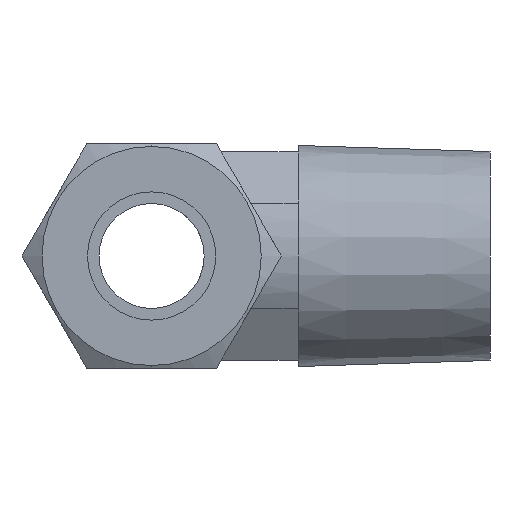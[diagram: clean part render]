
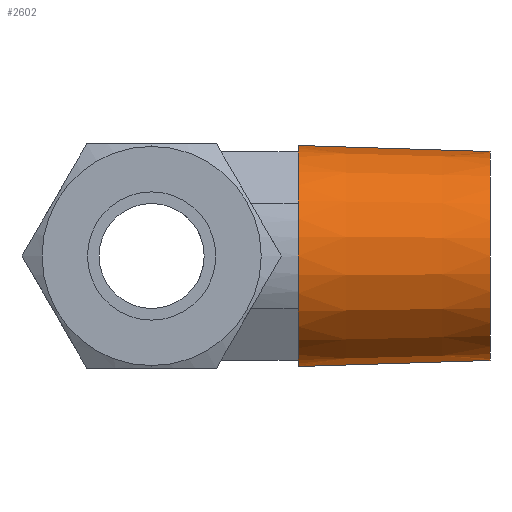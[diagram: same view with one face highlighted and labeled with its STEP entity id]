
A CAD part, left-side view. The second image highlights one B-rep face of the part: STEP entity #2602.
In plain terms, the highlighted conical face has half-angle 1.8 degrees and reference radius 10.6 mm.
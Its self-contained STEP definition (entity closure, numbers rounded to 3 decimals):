
#32 = VERTEX_POINT ( 'NONE', #670 ) ;
#89 = ORIENTED_EDGE ( 'NONE', *, *, #90, .T. ) ;
#90 = EDGE_CURVE ( 'NONE', #2630, #2614, #771, .T. ) ;
#91 = ORIENTED_EDGE ( 'NONE', *, *, #92, .F. ) ;
#92 = EDGE_CURVE ( 'NONE', #2594, #2614, #766, .T. ) ;
#670 = CARTESIAN_POINT ( 'NONE',  ( 0., -14.5, 10.942 ) ) ;
#763 = DIRECTION ( 'NONE',  ( 0., 1., -0.031 ) ) ;
#764 = VECTOR ( 'NONE', #763, 1000. ) ;
#765 = CARTESIAN_POINT ( 'NONE',  ( 0., -25.37, -10.6 ) ) ;
#766 = LINE ( 'NONE', #765, #764 ) ;
#767 = DIRECTION ( 'NONE',  ( 0., 0., -1. ) ) ;
#768 = DIRECTION ( 'NONE',  ( 0., -1., 0. ) ) ;
#769 = CARTESIAN_POINT ( 'NONE',  ( 0., -14.5, 0. ) ) ;
#770 = AXIS2_PLACEMENT_3D ( 'NONE', #769, #768, #767 ) ;
#771 = CIRCLE ( 'NONE', #770, 10.942 ) ;
#1975 = DIRECTION ( 'NONE',  ( 0., 1., 0.031 ) ) ;
#1976 = VECTOR ( 'NONE', #1975, 1000. ) ;
#1977 = CARTESIAN_POINT ( 'NONE',  ( 0., -25.37, 10.6 ) ) ;
#1983 = LINE ( 'NONE', #1977, #1976 ) ;
#1999 = CARTESIAN_POINT ( 'NONE',  ( 0., -33.5, 10.345 ) ) ;
#2006 = CARTESIAN_POINT ( 'NONE',  ( 0., -33.5, -10.345 ) ) ;
#2033 = CARTESIAN_POINT ( 'NONE',  ( -3.692, -14.5, 10.3 ) ) ;
#2034 = CARTESIAN_POINT ( 'NONE',  ( -7.074, -14.5, -8.347 ) ) ;
#2035 = DIRECTION ( 'NONE',  ( 0., 0., -1. ) ) ;
#2036 = DIRECTION ( 'NONE',  ( 0., -1., 0. ) ) ;
#2037 = CARTESIAN_POINT ( 'NONE',  ( 0., -14.5, 0. ) ) ;
#2038 = AXIS2_PLACEMENT_3D ( 'NONE', #2037, #2036, #2035 ) ;
#2039 = CIRCLE ( 'NONE', #2038, 10.942 ) ;
#2044 = DIRECTION ( 'NONE',  ( 0., 0., -1. ) ) ;
#2045 = DIRECTION ( 'NONE',  ( 0., 1., 0. ) ) ;
#2046 = CARTESIAN_POINT ( 'NONE',  ( 0., -25.37, 0. ) ) ;
#2047 = AXIS2_PLACEMENT_3D ( 'NONE', #2046, #2045, #2044 ) ;
#2048 = CONICAL_SURFACE ( 'NONE', #2047, 10.6, 0.031 ) ;
#2049 = FACE_OUTER_BOUND ( 'NONE', #2603, .T. ) ;
#2050 = DIRECTION ( 'NONE',  ( 0., 0., -1. ) ) ;
#2051 = DIRECTION ( 'NONE',  ( 0., -1., 0. ) ) ;
#2052 = CARTESIAN_POINT ( 'NONE',  ( 0., -33.5, 0. ) ) ;
#2053 = AXIS2_PLACEMENT_3D ( 'NONE', #2052, #2051, #2050 ) ;
#2054 = CIRCLE ( 'NONE', #2053, 10.345 ) ;
#2058 = CARTESIAN_POINT ( 'NONE',  ( -3.692, -14.5, -10.3 ) ) ;
#2077 = CARTESIAN_POINT ( 'NONE',  ( -7.074, -14.5, 8.347 ) ) ;
#2078 = DIRECTION ( 'NONE',  ( 0., 0., -1. ) ) ;
#2079 = DIRECTION ( 'NONE',  ( 0., -1., 0. ) ) ;
#2080 = CARTESIAN_POINT ( 'NONE',  ( 0., -14.5, 0. ) ) ;
#2081 = AXIS2_PLACEMENT_3D ( 'NONE', #2080, #2079, #2078 ) ;
#2082 = CIRCLE ( 'NONE', #2081, 10.942 ) ;
#2083 = CARTESIAN_POINT ( 'NONE',  ( 0., -14.5, -10.942 ) ) ;
#2084 = DIRECTION ( 'NONE',  ( 0., 0., -1. ) ) ;
#2085 = DIRECTION ( 'NONE',  ( 0., -1., 0. ) ) ;
#2086 = CARTESIAN_POINT ( 'NONE',  ( 0., -14.5, 0. ) ) ;
#2087 = AXIS2_PLACEMENT_3D ( 'NONE', #2086, #2085, #2084 ) ;
#2088 = CIRCLE ( 'NONE', #2087, 10.942 ) ;
#2239 = CIRCLE ( 'NONE', #2294, 10.942 ) ;
#2291 = DIRECTION ( 'NONE',  ( 0., 0., -1. ) ) ;
#2292 = DIRECTION ( 'NONE',  ( 0., -1., 0. ) ) ;
#2293 = CARTESIAN_POINT ( 'NONE',  ( 0., -14.5, 0. ) ) ;
#2294 = AXIS2_PLACEMENT_3D ( 'NONE', #2293, #2292, #2291 ) ;
#2575 = EDGE_CURVE ( 'NONE', #2597, #32, #1983, .T. ) ;
#2583 = ORIENTED_EDGE ( 'NONE', *, *, #2613, .T. ) ;
#2594 = VERTEX_POINT ( 'NONE', #2006 ) ;
#2597 = VERTEX_POINT ( 'NONE', #1999 ) ;
#2599 = EDGE_CURVE ( 'NONE', #2597, #2594, #2054, .T. ) ;
#2600 = ORIENTED_EDGE ( 'NONE', *, *, #2575, .T. ) ;
#2601 = ORIENTED_EDGE ( 'NONE', *, *, #2599, .F. ) ;
#2602 = ADVANCED_FACE ( 'NONE', ( #2049 ), #2048, .T. ) ;
#2603 = EDGE_LOOP ( 'NONE', ( #2601, #2600, #2611, #2610, #2583, #2608, #89, #91 ) ) ;
#2606 = EDGE_CURVE ( 'NONE', #32, #2609, #2039, .T. ) ;
#2607 = VERTEX_POINT ( 'NONE', #2034 ) ;
#2608 = ORIENTED_EDGE ( 'NONE', *, *, #2700, .T. ) ;
#2609 = VERTEX_POINT ( 'NONE', #2033 ) ;
#2610 = ORIENTED_EDGE ( 'NONE', *, *, #2615, .T. ) ;
#2611 = ORIENTED_EDGE ( 'NONE', *, *, #2606, .T. ) ;
#2613 = EDGE_CURVE ( 'NONE', #2616, #2607, #2088, .T. ) ;
#2614 = VERTEX_POINT ( 'NONE', #2083 ) ;
#2615 = EDGE_CURVE ( 'NONE', #2609, #2616, #2082, .T. ) ;
#2616 = VERTEX_POINT ( 'NONE', #2077 ) ;
#2630 = VERTEX_POINT ( 'NONE', #2058 ) ;
#2700 = EDGE_CURVE ( 'NONE', #2607, #2630, #2239, .T. ) ;
